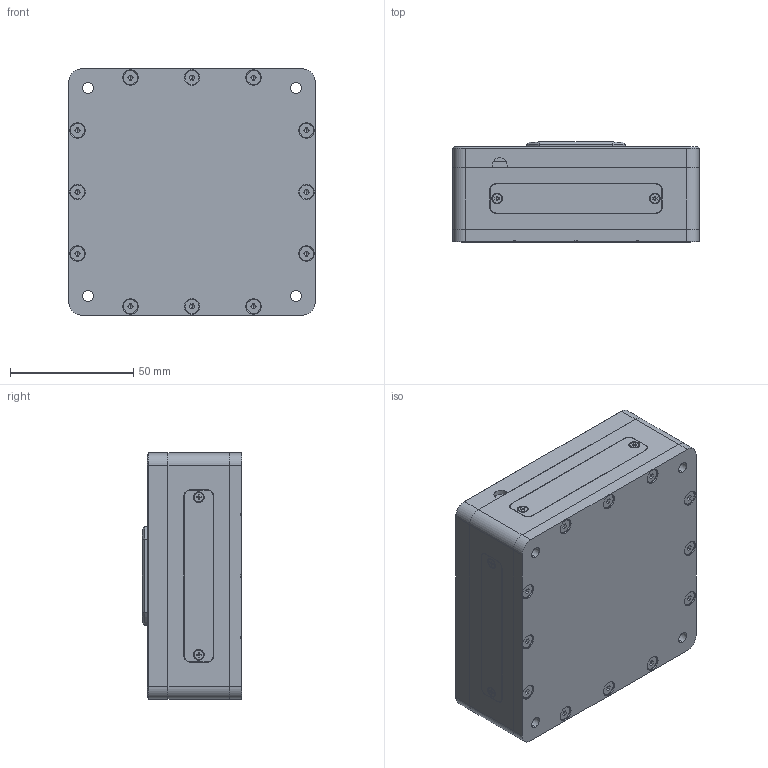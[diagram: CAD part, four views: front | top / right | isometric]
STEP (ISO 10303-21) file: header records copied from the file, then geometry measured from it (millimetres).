
FILE_DESCRIPTION (( 'STEP AP214' ), '1' );
FILE_NAME ('TISNUM.10.00.000捘 - 栴鳧歑.STEP', '2014-03-28T11:11:33', ( '' ), ( '' ), 'SwSTEP 2.0', 'SolidWorks 2013', '' );
FILE_SCHEMA (( 'AUTOMOTIVE_DESIGN' ));
Length unit declared in the file: millimetre
Products named in the file (1): TISNUM.10.00.000捘 - 栴鳧歑
Bounding box: 100 x 40.5 x 100 mm (x, y, z)
Surface area: 61648.4 mm2 (no closed solid volume)
Topology: 0 solids, 36 shells, 489 faces, 1596 edges, 1082 vertices
Faces by surface type: plane 266, cylinder 135, cone 80, torus 8
Entity records: 22686 total; most frequent: CARTESIAN_POINT 3404, DIRECTION 3037, ORIENTED_EDGE 2468, EDGE_CURVE 1564, VERTEX_POINT 1082, AXIS2_PLACEMENT_3D 1047, VECTOR 943, LINE 943
